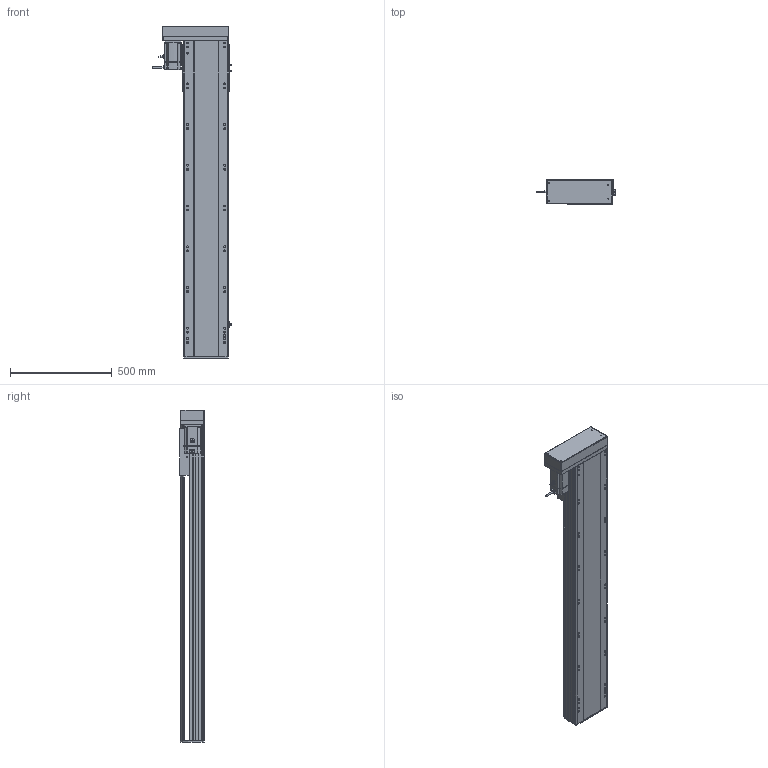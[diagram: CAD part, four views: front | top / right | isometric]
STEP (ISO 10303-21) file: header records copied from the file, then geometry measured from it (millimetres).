
FILE_DESCRIPTION (( 'STEP AP214' ), '1' );
FILE_NAME ('RTH22-XX-1250-R-M75-C4.STEP', '2025-10-25T03:14:27', ( 'Microsoft' ), ( 'Microsoft' ), 'SwSTEP 2.0', 'SolidWorks 2018', '' );
FILE_SCHEMA (( 'AUTOMOTIVE_DESIGN' ));
Length unit declared in the file: millimetre
Products named in the file (10): N_RTH22-L-011菁釱^RTH22-XX-XX-R-M75-C4; N_RTH22-L-018裔赽^RTH22-XX-XX-R-M75-C4; N_750W萇儂^RTH22-XX-XX-R-M75-C4; RTH22-XX-1250-R-M75-C4; N_RTH22-R-008-P75萇儂啣^RTH22-XX-XX-R-M75-C4; N_OMRON EE-SX672 传感器^RTH22-XX-XX-R-M75-C4; N_RTH22-GY-001耜裔^RTH22-XX-XX-R-M75-C4; N_RTH22-L-007奻裔^RTH22-XX-XX-R-M75-C4; N_RTH22-GY-013外置感应片^RTH22-XX-XX-R-M75-C4; N_RTH22-L-004-SFS25賑釱^RTH22-XX-XX-R-M75-C4
Assembly tree (11 placements, depth 2):
  RTH22-XX-1250-R-M75-C4
    N_RTH22-L-011菁釱^RTH22-XX-XX-R-M75-C4
    N_RTH22-GY-001耜裔^RTH22-XX-XX-R-M75-C4
    N_750W萇儂^RTH22-XX-XX-R-M75-C4
    N_RTH22-R-008-P75萇儂啣^RTH22-XX-XX-R-M75-C4
    N_RTH22-L-007奻裔^RTH22-XX-XX-R-M75-C4
    N_OMRON EE-SX672 传感器^RTH22-XX-XX-R-M75-C4  x3
    N_RTH22-GY-013外置感应片^RTH22-XX-XX-R-M75-C4
    N_RTH22-L-004-SFS25賑釱^RTH22-XX-XX-R-M75-C4
    N_RTH22-L-018裔赽^RTH22-XX-XX-R-M75-C4
Bounding box: 384.7 x 122 x 1629.7 mm (x, y, z)
Volume: 21840451.2 mm3; surface area: 2405765 mm2
Topology: 11 solids, 11 shells, 1628 faces, 4447 edges, 2863 vertices
Faces by surface type: plane 797, cylinder 486, bspline 279, cone 66
Entity records: 41283 total; most frequent: CARTESIAN_POINT 12498, ORIENTED_EDGE 5854, DIRECTION 5553, EDGE_CURVE 2927, VERTEX_POINT 1899, AXIS2_PLACEMENT_3D 1882, VECTOR 1789, LINE 1789
